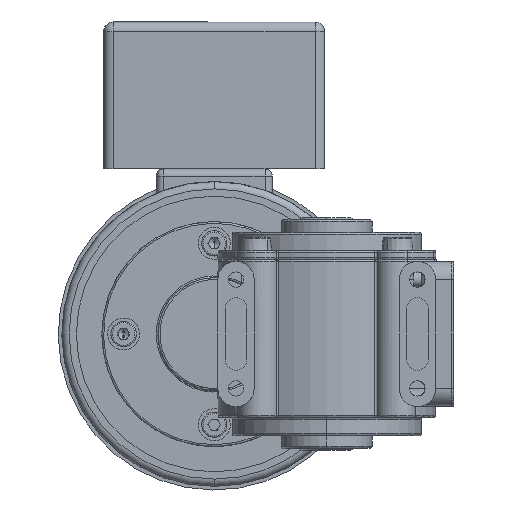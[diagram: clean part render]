
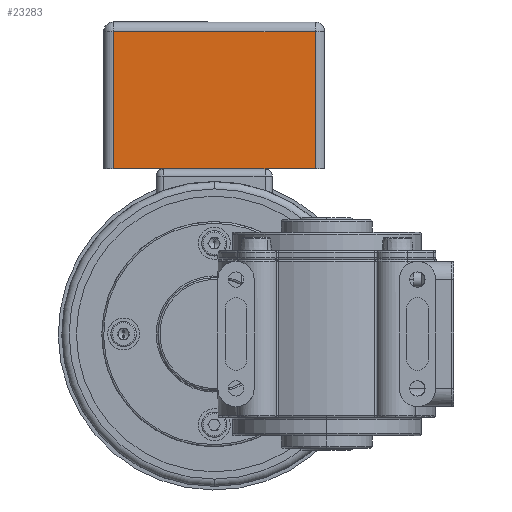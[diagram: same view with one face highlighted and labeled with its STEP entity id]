
A CAD part, left-side view. The second image highlights one B-rep face of the part: STEP entity #23283.
In plain terms, the highlighted planar face has unit normal (-1, 0, 0).
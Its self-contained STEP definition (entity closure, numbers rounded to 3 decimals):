
#940 = ORIENTED_EDGE ( 'NONE', *, *, #31439, .T. ) ;
#2264 = VECTOR ( 'NONE', #30881, 1000. ) ;
#3377 = EDGE_CURVE ( 'NONE', #15981, #12358, #9086, .T. ) ;
#3902 = CARTESIAN_POINT ( 'NONE',  ( -92.68, -5.349, 86. ) ) ;
#4219 = DIRECTION ( 'NONE',  ( 0., 1., 0. ) ) ;
#4532 = VECTOR ( 'NONE', #16283, 1000. ) ;
#4555 = VECTOR ( 'NONE', #24737, 1000. ) ;
#4559 = DIRECTION ( 'NONE',  ( 1., 0., 0. ) ) ;
#5164 = LINE ( 'NONE', #12508, #4555 ) ;
#6841 = PLANE ( 'NONE',  #12635 ) ;
#7888 = CARTESIAN_POINT ( 'NONE',  ( -92.68, -5.349, 83.328 ) ) ;
#8165 = VECTOR ( 'NONE', #18518, 1000. ) ;
#8246 = CARTESIAN_POINT ( 'NONE',  ( -92.68, -5.349, 45.5 ) ) ;
#8776 = LINE ( 'NONE', #3902, #8165 ) ;
#9086 = LINE ( 'NONE', #16588, #4532 ) ;
#9167 = ORIENTED_EDGE ( 'NONE', *, *, #19035, .T. ) ;
#11764 = FACE_OUTER_BOUND ( 'NONE', #22525, .T. ) ;
#12358 = VERTEX_POINT ( 'NONE', #8246 ) ;
#12508 = CARTESIAN_POINT ( 'NONE',  ( -92.68, 50.307, 86. ) ) ;
#12635 = AXIS2_PLACEMENT_3D ( 'NONE', #26560, #4559, #4219 ) ;
#15801 = EDGE_CURVE ( 'NONE', #12358, #30113, #8776, .T. ) ;
#15981 = VERTEX_POINT ( 'NONE', #19270 ) ;
#16283 = DIRECTION ( 'NONE',  ( 0., -1., 0. ) ) ;
#16588 = CARTESIAN_POINT ( 'NONE',  ( -92.68, -8.021, 45.5 ) ) ;
#18497 = CARTESIAN_POINT ( 'NONE',  ( -92.68, -8.021, 83.328 ) ) ;
#18518 = DIRECTION ( 'NONE',  ( 0., 0., 1. ) ) ;
#19035 = EDGE_CURVE ( 'NONE', #30113, #25912, #28009, .T. ) ;
#19270 = CARTESIAN_POINT ( 'NONE',  ( -92.68, 50.307, 45.5 ) ) ;
#21117 = CARTESIAN_POINT ( 'NONE',  ( -92.68, 50.307, 83.328 ) ) ;
#22525 = EDGE_LOOP ( 'NONE', ( #9167, #940, #31013, #29402 ) ) ;
#23283 = ADVANCED_FACE ( 'NONE', ( #11764 ), #6841, .F. ) ;
#24737 = DIRECTION ( 'NONE',  ( 0., 0., -1. ) ) ;
#25912 = VERTEX_POINT ( 'NONE', #21117 ) ;
#26560 = CARTESIAN_POINT ( 'NONE',  ( -92.68, -8.021, 86. ) ) ;
#28009 = LINE ( 'NONE', #18497, #2264 ) ;
#29402 = ORIENTED_EDGE ( 'NONE', *, *, #15801, .T. ) ;
#30113 = VERTEX_POINT ( 'NONE', #7888 ) ;
#30881 = DIRECTION ( 'NONE',  ( 0., 1., 0. ) ) ;
#31013 = ORIENTED_EDGE ( 'NONE', *, *, #3377, .T. ) ;
#31439 = EDGE_CURVE ( 'NONE', #25912, #15981, #5164, .T. ) ;
